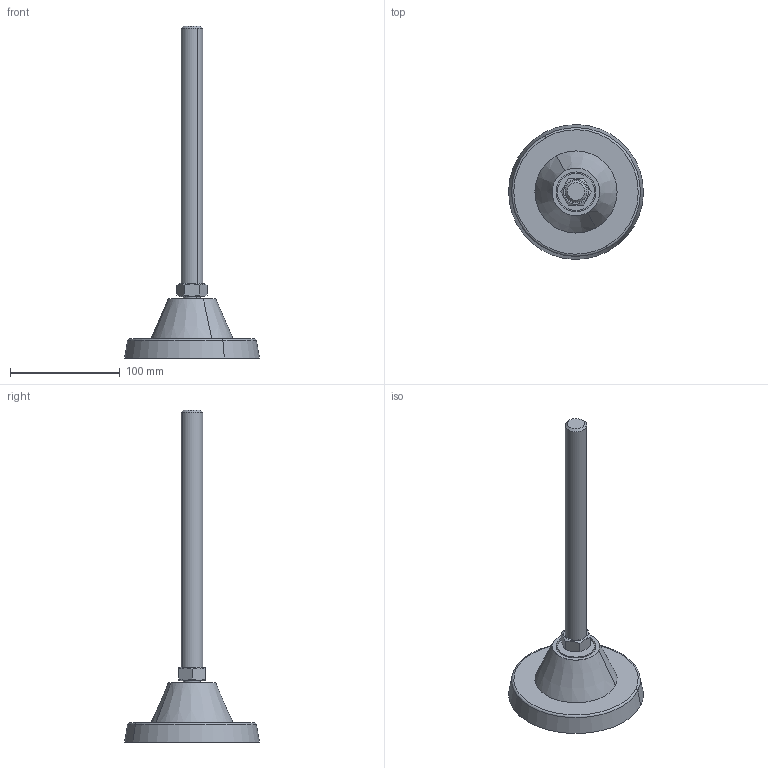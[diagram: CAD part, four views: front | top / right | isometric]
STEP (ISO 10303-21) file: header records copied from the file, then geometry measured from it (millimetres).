
FILE_DESCRIPTION(('CATIA V5 STEP Exchange'),'2;1');
FILE_NAME('C:\Users\ALI OZGUN\Desktop\alhan\ARTICULATED_FEET-PABUCLAR\502122029.stp','2017-09-08T06:28:33+00:00',('none'),('none'),'CATIA Version 5 Release 21 GA (IN-10)','CATIA V5 STEP AP203','none');
FILE_SCHEMA(('CONFIG_CONTROL_DESIGN'));
Length unit declared in the file: millimetre
Products named in the file (1): 502122029
Bounding box: 122.97 x 122.97 x 303 mm (x, y, z)
Volume: 242791.5 mm3; surface area: 79198.9 mm2
Topology: 3 solids, 3 shells, 127 faces, 330 edges, 216 vertices
Faces by surface type: plane 61, cylinder 32, cone 30, torus 2, sphere 2
Entity records: 3851 total; most frequent: CARTESIAN_POINT 1199, ORIENTED_EDGE 660, DIRECTION 330, EDGE_CURVE 330, VERTEX_POINT 216, AXIS2_PLACEMENT_3D 168, EDGE_LOOP 138, ADVANCED_FACE 127
